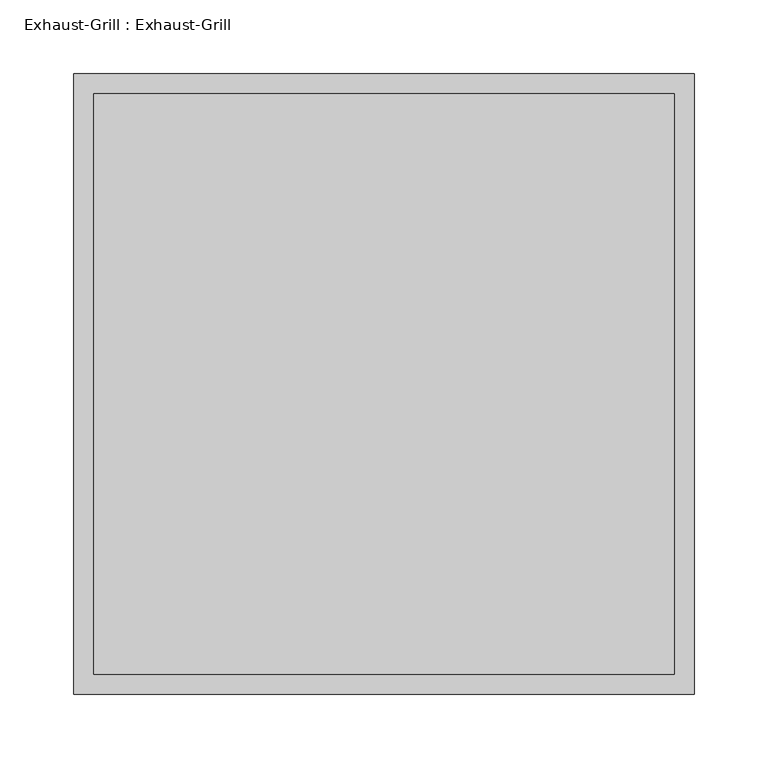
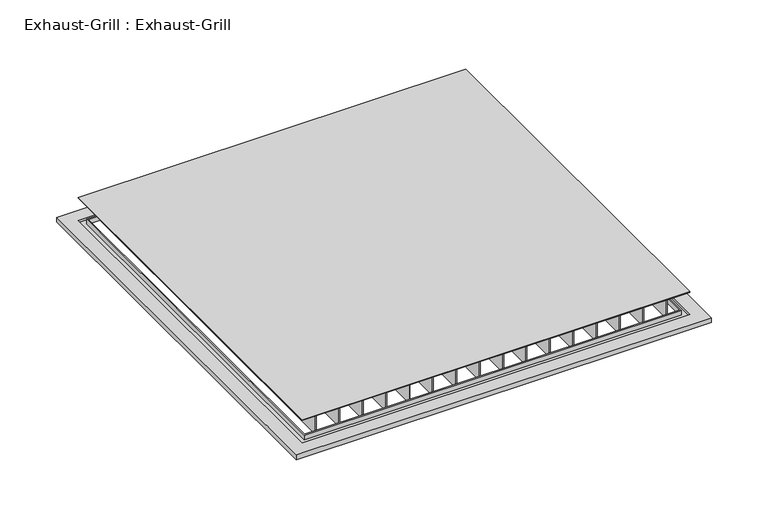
"""IFC4 building model written with IfcOpenShell, lengths in millimetres: air terminal geometry, Exhaust-Grill : Exhaust-Grill."""

from ifc_helpers import new_model, si_unit, frame, origin, place, context, project, spatial, polyline, outline, extrude, faceted_brep, source, transform, mapped, element, save


def exhaust_grill_exhaust_grill_6b1b1e3d(model_context):
    return source(origin(), model_context, "Body", "SolidModel", [
        faceted_brep([(210.0147705, 210.0, 4000.0), (-209.9852295, 210.0, 4000.0), (-209.9852295, -210.0, 4000.0), (210.0147705, -210.0, 4000.0), (196.480835, 196.4660645, 4000.0), (196.480835, -196.4660645, 4000.0), (-196.4512939, -196.4660645, 4000.0), (-196.4512939, 196.4660645, 4000.0), (210.0147705, 210.0, 3995.0), (210.0147705, -210.0, 3995.0), (-209.9852295, -210.0, 3995.0), (-209.9852295, 210.0, 3995.0), (-196.4512939, -196.4660645, 3995.0), (196.480835, -196.4660645, 3995.0), (196.480835, 196.4660645, 3995.0), (-196.4512939, 196.4660645, 3995.0), (196.480835, 196.4660645, 3997.9998779), (196.480835, -196.4660645, 3997.9998779), (-196.4512939, -196.4660645, 3997.9998779), (-196.4512939, 196.4660645, 3997.9998779), (191.0511475, -191.036377, 3997.9998779), (-191.0216064, -191.036377, 3997.9998779), (-191.0216064, 191.036377, 3997.9998779), (191.0511475, 191.036377, 3997.9998779)], [[[0, 1, 2, 3], [4, 5, 6, 7]], [[8, 9, 10, 11], [12, 13, 14, 15]], [[1, 0, 8, 11]], [[2, 1, 11, 10]], [[3, 2, 10, 9]], [[0, 3, 9, 8]], [[5, 4, 16, 17]], [[6, 5, 17, 18]], [[7, 6, 18, 19]], [[4, 7, 19, 16]], [[20, 13, 12, 21]], [[21, 12, 15, 22]], [[22, 15, 14, 23]], [[17, 16, 19, 18], [20, 21, 22, 23]], [[13, 20, 23, 14]]]),
        extrude(outline(polyline([(191.0511475, 191.036377), (191.0511475, -191.036377), (-191.0216064, -191.036377), (-191.0216064, 191.036377), (191.0511475, 191.036377)]), holes=[polyline([(189.529541, 189.5147705), (-189.5, 189.5147705), (-189.5, -189.5147705), (189.529541, -189.5147705), (189.529541, 189.5147705)])]), frame((0.0, 0.0, 3997.9998779), z_axis=(0.0, 0.0, 1.0), x_axis=(1.0, 0.0, 0.0)), (0.0, 0.0, 1.0), 5.0),
        extrude(outline(polyline([(178.1690674, -188.347168), (177.1998291, -188.347168), (177.1998291, 188.347168), (178.1690674, 188.347168), (178.1690674, -188.347168)])), frame((0.0, 0.0, 3997.9385376), z_axis=(0.0, 0.0, 1.0), x_axis=(1.0, 0.0, 0.0)), (0.0, 0.0, 1.0), 23.6264038),
        extrude(outline(polyline([(154.4801025, -188.347168), (153.5108643, -188.347168), (153.5108643, 188.347168), (154.4801025, 188.347168), (154.4801025, -188.347168)])), frame((0.0, 0.0, 3997.9385376), z_axis=(0.0, 0.0, 1.0), x_axis=(1.0, 0.0, 0.0)), (0.0, 0.0, 1.0), 23.6264038),
        extrude(outline(polyline([(130.7905273, -188.347168), (129.8212891, -188.347168), (129.8212891, 188.347168), (130.7905273, 188.347168), (130.7905273, -188.347168)])), frame((0.0, 0.0, 3997.9385376), z_axis=(0.0, 0.0, 1.0), x_axis=(1.0, 0.0, 0.0)), (0.0, 0.0, 1.0), 23.6264038),
        extrude(outline(polyline([(107.1015625, -188.347168), (106.1323242, -188.347168), (106.1323242, 188.347168), (107.1015625, 188.347168), (107.1015625, -188.347168)])), frame((0.0, 0.0, 3997.9385376), z_axis=(0.0, 0.0, 1.0), x_axis=(1.0, 0.0, 0.0)), (0.0, 0.0, 1.0), 23.6264038),
        extrude(outline(polyline([(83.4119873, -188.347168), (82.442749, -188.347168), (82.442749, 188.347168), (83.4119873, 188.347168), (83.4119873, -188.347168)])), frame((0.0, 0.0, 3997.9385376), z_axis=(0.0, 0.0, 1.0), x_axis=(1.0, 0.0, 0.0)), (0.0, 0.0, 1.0), 23.6264038),
        extrude(outline(polyline([(59.7230225, -188.347168), (58.7537842, -188.347168), (58.7537842, 188.347168), (59.7230225, 188.347168), (59.7230225, -188.347168)])), frame((0.0, 0.0, 3997.9385376), z_axis=(0.0, 0.0, 1.0), x_axis=(1.0, 0.0, 0.0)), (0.0, 0.0, 1.0), 23.6264038),
        extrude(outline(polyline([(36.0334473, -188.347168), (35.064209, -188.347168), (35.064209, 188.347168), (36.0334473, 188.347168), (36.0334473, -188.347168)])), frame((0.0, 0.0, 3997.9385376), z_axis=(0.0, 0.0, 1.0), x_axis=(1.0, 0.0, 0.0)), (0.0, 0.0, 1.0), 23.6264038),
        extrude(outline(polyline([(12.3438721, -188.347168), (11.3746338, -188.347168), (11.3746338, 188.347168), (12.3438721, 188.347168), (12.3438721, -188.347168)])), frame((0.0, 0.0, 3997.9385376), z_axis=(0.0, 0.0, 1.0), x_axis=(1.0, 0.0, 0.0)), (0.0, 0.0, 1.0), 23.6264038),
        extrude(outline(polyline([(-11.3450928, -188.347168), (-12.3143311, -188.347168), (-12.3143311, 188.347168), (-11.3450928, 188.347168), (-11.3450928, -188.347168)])), frame((0.0, 0.0, 3997.9385376), z_axis=(0.0, 0.0, 1.0), x_axis=(1.0, 0.0, 0.0)), (0.0, 0.0, 1.0), 23.6264038),
        extrude(outline(polyline([(-35.0340576, -188.347168), (-36.0032959, -188.347168), (-36.0032959, 188.347168), (-35.0340576, 188.347168), (-35.0340576, -188.347168)])), frame((0.0, 0.0, 3997.9385376), z_axis=(0.0, 0.0, 1.0), x_axis=(1.0, 0.0, 0.0)), (0.0, 0.0, 1.0), 23.6264038),
        extrude(outline(polyline([(-58.7236328, -188.347168), (-59.6928711, -188.347168), (-59.6928711, 188.347168), (-58.7236328, 188.347168), (-58.7236328, -188.347168)])), frame((0.0, 0.0, 3997.9385376), z_axis=(0.0, 0.0, 1.0), x_axis=(1.0, 0.0, 0.0)), (0.0, 0.0, 1.0), 23.6264038),
        extrude(outline(polyline([(-82.4125977, -188.347168), (-83.3818359, -188.347168), (-83.3818359, 188.347168), (-82.4125977, 188.347168), (-82.4125977, -188.347168)])), frame((0.0, 0.0, 3997.9385376), z_axis=(0.0, 0.0, 1.0), x_axis=(1.0, 0.0, 0.0)), (0.0, 0.0, 1.0), 23.6264038),
        extrude(outline(polyline([(-106.1021729, -188.347168), (-107.0714111, -188.347168), (-107.0714111, 188.347168), (-106.1021729, 188.347168), (-106.1021729, -188.347168)])), frame((0.0, 0.0, 3997.9385376), z_axis=(0.0, 0.0, 1.0), x_axis=(1.0, 0.0, 0.0)), (0.0, 0.0, 1.0), 23.6264038),
        extrude(outline(polyline([(-129.7911377, -188.347168), (-130.760376, -188.347168), (-130.760376, 188.347168), (-129.7911377, 188.347168), (-129.7911377, -188.347168)])), frame((0.0, 0.0, 3997.9385376), z_axis=(0.0, 0.0, 1.0), x_axis=(1.0, 0.0, 0.0)), (0.0, 0.0, 1.0), 23.6264038),
        extrude(outline(polyline([(-153.4807129, -188.347168), (-154.4499512, -188.347168), (-154.4499512, 188.347168), (-153.4807129, 188.347168), (-153.4807129, -188.347168)])), frame((0.0, 0.0, 3997.9385376), z_axis=(0.0, 0.0, 1.0), x_axis=(1.0, 0.0, 0.0)), (0.0, 0.0, 1.0), 23.6264038),
        extrude(outline(polyline([(-177.1702881, -188.347168), (-178.1395264, -188.347168), (-178.1395264, 188.347168), (-177.1702881, 188.347168), (-177.1702881, -188.347168)])), frame((0.0, 0.0, 3997.9385376), z_axis=(0.0, 0.0, 1.0), x_axis=(1.0, 0.0, 0.0)), (0.0, 0.0, 1.0), 23.6264038),
        extrude(outline(polyline([(196.480835, 196.4660645), (196.480835, -196.4660645), (-196.4512939, -196.4660645), (-196.4512939, 196.4660645), (196.480835, 196.4660645)])), frame((0.0, 0.0, 4024.0), z_axis=(0.0, 0.0, 1.0), x_axis=(1.0, 0.0, 0.0)), (0.0, 0.0, 1.0), 1.0),
    ])


if __name__ == "__main__":
    model = new_model("IFC4")
    model_context = context("Model", 3, world=origin())
    ifc_project = project(units=[si_unit("LENGTHUNIT", "METRE", prefix="MILLI")], contexts=[model_context])
    site = spatial("IfcSite", under=ifc_project)
    building = spatial("IfcBuilding", under=site)
    placement = place(None, origin())
    exhaust_grill_exhaust_grill_shape = exhaust_grill_exhaust_grill_6b1b1e3d(model_context)
    element("IfcAirTerminal", 1, ObjectType="Exhaust-Grill : Exhaust-Grill", at=placement, inside=building, context=model_context, shape_type="MappedRepresentation", body=[
        mapped(exhaust_grill_exhaust_grill_shape, transform((0.0, 0.0, 0.0), x_axis=(1.0, 0.0, 0.0), y_axis=(0.0, 1.0, 0.0), z_axis=(0.0, 0.0, 1.0))),
    ])
    save(model, "model.ifc")
